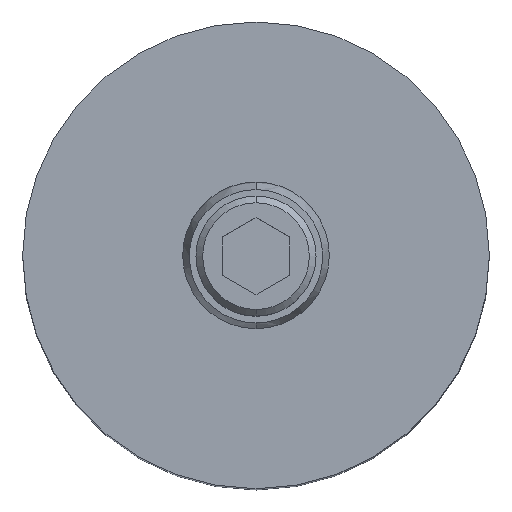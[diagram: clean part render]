
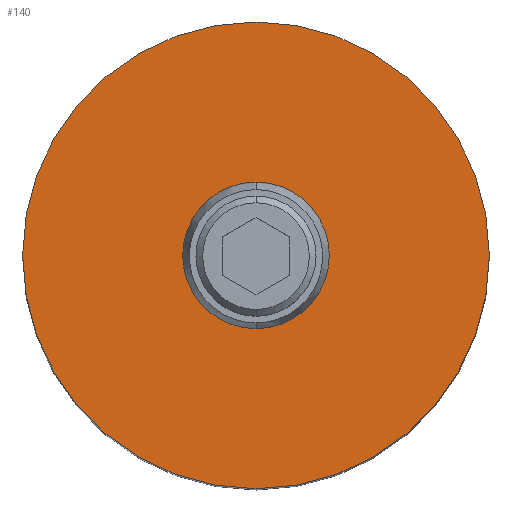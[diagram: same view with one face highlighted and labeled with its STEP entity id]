
A CAD part, top view. The second image highlights one B-rep face of the part: STEP entity #140.
In plain terms, the highlighted planar face has unit normal (0, 0, 1).
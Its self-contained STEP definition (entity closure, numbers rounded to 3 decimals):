
#110=PLANE('',#653);
#125=FACE_BOUND('',#221,.T.);
#126=FACE_BOUND('',#222,.T.);
#140=ADVANCED_FACE('',(#125,#126),#110,.T.);
#221=EDGE_LOOP('',(#311,#312));
#222=EDGE_LOOP('',(#313,#314));
#258=CIRCLE('',#641,35.);
#259=CIRCLE('',#643,35.);
#263=CIRCLE('',#649,11.);
#264=CIRCLE('',#651,11.);
#311=ORIENTED_EDGE('',*,*,#488,.F.);
#312=ORIENTED_EDGE('',*,*,#489,.F.);
#313=ORIENTED_EDGE('',*,*,#496,.T.);
#314=ORIENTED_EDGE('',*,*,#494,.T.);
#439=VERTEX_POINT('',#894);
#442=VERTEX_POINT('',#899);
#445=VERTEX_POINT('',#911);
#446=VERTEX_POINT('',#913);
#488=EDGE_CURVE('',#442,#439,#258,.T.);
#489=EDGE_CURVE('',#439,#442,#259,.T.);
#494=EDGE_CURVE('',#446,#445,#263,.T.);
#496=EDGE_CURVE('',#445,#446,#264,.T.);
#641=AXIS2_PLACEMENT_3D('',#900,#716,#717);
#643=AXIS2_PLACEMENT_3D('',#902,#720,#721);
#649=AXIS2_PLACEMENT_3D('',#912,#733,#734);
#651=AXIS2_PLACEMENT_3D('',#916,#738,#739);
#653=AXIS2_PLACEMENT_3D('',#918,#742,#743);
#716=DIRECTION('',(0.,0.,-1.));
#717=DIRECTION('',(1.,0.,0.));
#720=DIRECTION('',(0.,0.,-1.));
#721=DIRECTION('',(-1.,0.,0.));
#733=DIRECTION('',(0.,0.,-1.));
#734=DIRECTION('',(1.,0.,0.));
#738=DIRECTION('',(0.,0.,-1.));
#739=DIRECTION('',(-1.,0.,0.));
#742=DIRECTION('',(0.,0.,1.));
#743=DIRECTION('',(-1.,0.,0.));
#894=CARTESIAN_POINT('',(0.,35.,110.));
#899=CARTESIAN_POINT('',(0.,-35.,110.));
#900=CARTESIAN_POINT('',(0.,0.,110.));
#902=CARTESIAN_POINT('',(0.,0.,110.));
#911=CARTESIAN_POINT('',(0.,11.,110.));
#912=CARTESIAN_POINT('',(0.,0.,110.));
#913=CARTESIAN_POINT('',(0.,-11.,110.));
#916=CARTESIAN_POINT('',(0.,0.,110.));
#918=CARTESIAN_POINT('',(0.,0.,110.));
